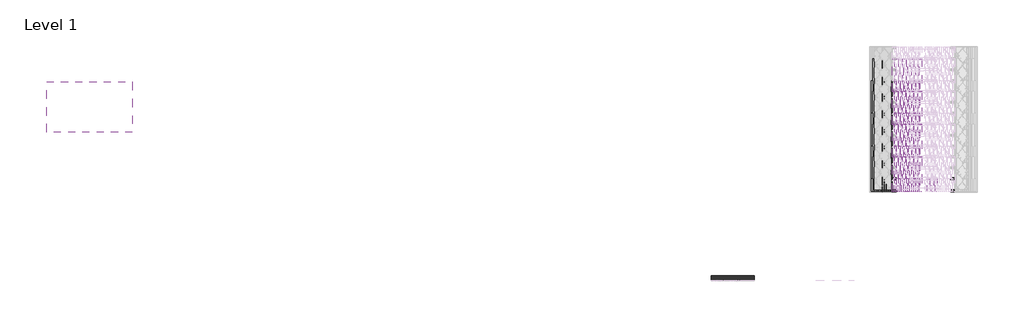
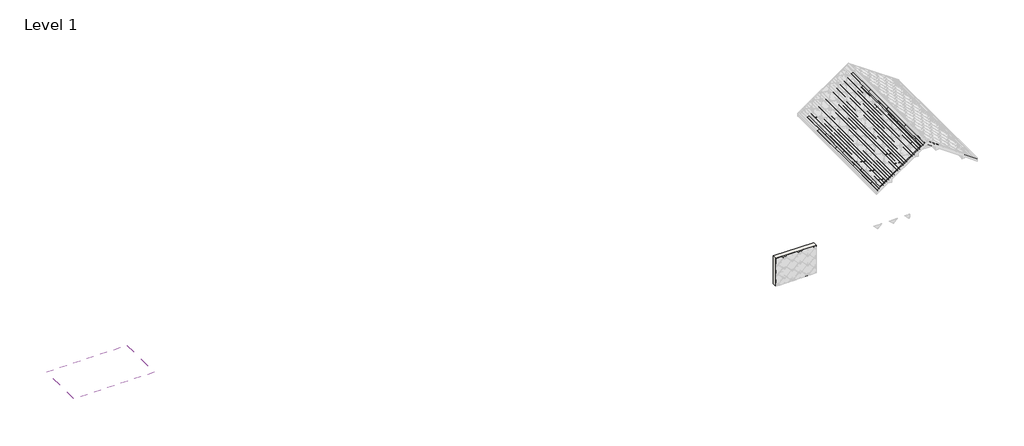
# One storey, part 1 of 6: 109 beams, 1 roof, 1 wall.
"""IFC4 building model written with IfcOpenShell, lengths in millimetres."""

from ifc_helpers import new_model, si_unit, frame, origin, place, context, project, spatial, polyline, outline, extrude, transform, mapped, element, save
from components import structural_framing_100_structural_framing_15_5def26a6, structural_framing_101_structural_framing_15_d9cf2b80, structural_framing_103_structural_framing_15_b869128d, structural_framing_109_structural_framing_15_08dff260, structural_framing_1_structural_framing_1_4f4e03de, structural_framing_14_structural_framing_1_1f79d0da, structural_framing_159_structural_framing_15_e730e61d

model = new_model("IFC4")

# Units and contexts
model_context = context("Model", 3, world=origin())
ifc_project = project(units=[si_unit("LENGTHUNIT", "METRE", prefix="MILLI")], contexts=[model_context])

# Site, building, storey
site = spatial("IfcSite", under=ifc_project)
building = spatial("IfcBuilding", under=site)
storey = spatial("IfcBuildingStorey", under=building, Name="Level 1", Elevation=0.0)

# Beams
placement = place(None, origin())
structural_framing_100_structural_framing_15_shape = structural_framing_100_structural_framing_15_5def26a6(model_context)
element("IfcBeam", 1, ObjectType="Structural Framing 100 : Structural Framing 15", at=placement, inside=storey, context=model_context, shape_type="MappedRepresentation", body=[
    mapped(structural_framing_100_structural_framing_15_shape, transform((-2427.8516115, -870.0, -1700.0), x_axis=(1.0, 0.0, 0.0), y_axis=(0.0, 1.0, 0.0), z_axis=(0.0, 0.0, 1.0))),
])
structural_framing_101_structural_framing_15_shape = structural_framing_101_structural_framing_15_d9cf2b80(model_context)
element("IfcBeam", 2, ObjectType="Structural Framing 101 : Structural Framing 15", at=placement, inside=storey, context=model_context, shape_type="MappedRepresentation", body=[
    mapped(structural_framing_101_structural_framing_15_shape, transform((-2427.8516115, -3340.0, -1700.0), x_axis=(1.0, 0.0, 0.0), y_axis=(0.0, 1.0, 0.0), z_axis=(0.0, 0.0, 1.0))),
])
element("IfcBeam", 3, ObjectType="Structural Framing 102 : Structural Framing 15", at=placement, inside=storey, context=model_context, shape_type="MappedRepresentation", body=[
    mapped(structural_framing_101_structural_framing_15_shape, transform((-2427.8516115, -5740.0, -1700.0), x_axis=(1.0, 0.0, 0.0), y_axis=(0.0, 1.0, 0.0), z_axis=(0.0, 0.0, 1.0))),
])
structural_framing_103_structural_framing_15_shape = structural_framing_103_structural_framing_15_b869128d(model_context)
element("IfcBeam", 4, ObjectType="Structural Framing 103 : Structural Framing 15", at=placement, inside=storey, context=model_context, shape_type="MappedRepresentation", body=[
    mapped(structural_framing_103_structural_framing_15_shape, transform((-2427.8516115, -8140.0, -1700.0), x_axis=(1.0, 0.0, 0.0), y_axis=(0.0, 1.0, 0.0), z_axis=(0.0, 0.0, 1.0))),
])
element("IfcBeam", 5, ObjectType="Structural Framing 106 : Structural Framing 15", at=placement, inside=storey, context=model_context, shape_type="MappedRepresentation", body=[
    mapped(structural_framing_100_structural_framing_15_shape, transform((-2570.6664121, -2470.0, -1800.0), x_axis=(1.0, 0.0, 0.0), y_axis=(0.0, 1.0, 0.0), z_axis=(0.0, 0.0, 1.0))),
])
element("IfcBeam", 6, ObjectType="Structural Framing 107 : Structural Framing 15", at=placement, inside=storey, context=model_context, shape_type="MappedRepresentation", body=[
    mapped(structural_framing_100_structural_framing_15_shape, transform((-2570.6664121, -4870.0, -1800.0), x_axis=(1.0, 0.0, 0.0), y_axis=(0.0, 1.0, 0.0), z_axis=(0.0, 0.0, 1.0))),
])
element("IfcBeam", 7, ObjectType="Structural Framing 108 : Structural Framing 15", at=placement, inside=storey, context=model_context, shape_type="MappedRepresentation", body=[
    mapped(structural_framing_100_structural_framing_15_shape, transform((-2570.6664121, -7270.0, -1800.0), x_axis=(1.0, 0.0, 0.0), y_axis=(0.0, 1.0, 0.0), z_axis=(0.0, 0.0, 1.0))),
])
structural_framing_109_structural_framing_15_shape = structural_framing_109_structural_framing_15_08dff260(model_context)
element("IfcBeam", 8, ObjectType="Structural Framing 109 : Structural Framing 15", at=placement, inside=storey, context=model_context, shape_type="MappedRepresentation", body=[
    mapped(structural_framing_109_structural_framing_15_shape, transform((-2570.6664121, -9670.0, -1800.0), x_axis=(1.0, 0.0, 0.0), y_axis=(0.0, 1.0, 0.0), z_axis=(0.0, 0.0, 1.0))),
])
element("IfcBeam", 9, ObjectType="Structural Framing 110 : Structural Framing 15", at=placement, inside=storey, context=model_context, shape_type="MappedRepresentation", body=[
    mapped(structural_framing_100_structural_framing_15_shape, transform((-2713.4812128, -870.0, -1900.0), x_axis=(1.0, 0.0, 0.0), y_axis=(0.0, 1.0, 0.0), z_axis=(0.0, 0.0, 1.0))),
])
element("IfcBeam", 10, ObjectType="Structural Framing 111 : Structural Framing 15", at=placement, inside=storey, context=model_context, shape_type="MappedRepresentation", body=[
    mapped(structural_framing_101_structural_framing_15_shape, transform((-2713.4812128, -3340.0, -1900.0), x_axis=(1.0, 0.0, 0.0), y_axis=(0.0, 1.0, 0.0), z_axis=(0.0, 0.0, 1.0))),
])
element("IfcBeam", 11, ObjectType="Structural Framing 112 : Structural Framing 15", at=placement, inside=storey, context=model_context, shape_type="MappedRepresentation", body=[
    mapped(structural_framing_101_structural_framing_15_shape, transform((-2713.4812128, -5740.0, -1900.0), x_axis=(1.0, 0.0, 0.0), y_axis=(0.0, 1.0, 0.0), z_axis=(0.0, 0.0, 1.0))),
])
element("IfcBeam", 12, ObjectType="Structural Framing 113 : Structural Framing 15", at=placement, inside=storey, context=model_context, shape_type="MappedRepresentation", body=[
    mapped(structural_framing_103_structural_framing_15_shape, transform((-2713.4812128, -8140.0, -1900.0), x_axis=(1.0, 0.0, 0.0), y_axis=(0.0, 1.0, 0.0), z_axis=(0.0, 0.0, 1.0))),
])
element("IfcBeam", 13, ObjectType="Structural Framing 116 : Structural Framing 15", at=placement, inside=storey, context=model_context, shape_type="MappedRepresentation", body=[
    mapped(structural_framing_100_structural_framing_15_shape, transform((-2856.2960135, -2470.0, -2000.0), x_axis=(1.0, 0.0, 0.0), y_axis=(0.0, 1.0, 0.0), z_axis=(0.0, 0.0, 1.0))),
])
element("IfcBeam", 14, ObjectType="Structural Framing 117 : Structural Framing 15", at=placement, inside=storey, context=model_context, shape_type="MappedRepresentation", body=[
    mapped(structural_framing_100_structural_framing_15_shape, transform((-2856.2960135, -4870.0, -2000.0), x_axis=(1.0, 0.0, 0.0), y_axis=(0.0, 1.0, 0.0), z_axis=(0.0, 0.0, 1.0))),
])
element("IfcBeam", 15, ObjectType="Structural Framing 118 : Structural Framing 15", at=placement, inside=storey, context=model_context, shape_type="MappedRepresentation", body=[
    mapped(structural_framing_100_structural_framing_15_shape, transform((-2856.2960135, -7270.0, -2000.0), x_axis=(1.0, 0.0, 0.0), y_axis=(0.0, 1.0, 0.0), z_axis=(0.0, 0.0, 1.0))),
])
element("IfcBeam", 16, ObjectType="Structural Framing 119 : Structural Framing 15", at=placement, inside=storey, context=model_context, shape_type="MappedRepresentation", body=[
    mapped(structural_framing_109_structural_framing_15_shape, transform((-2856.2960135, -9670.0, -2000.0), x_axis=(1.0, 0.0, 0.0), y_axis=(0.0, 1.0, 0.0), z_axis=(0.0, 0.0, 1.0))),
])
element("IfcBeam", 17, ObjectType="Structural Framing 120 : Structural Framing 15", at=placement, inside=storey, context=model_context, shape_type="MappedRepresentation", body=[
    mapped(structural_framing_100_structural_framing_15_shape, transform((-2999.1108142, -870.0, -2100.0), x_axis=(1.0, 0.0, 0.0), y_axis=(0.0, 1.0, 0.0), z_axis=(0.0, 0.0, 1.0))),
])
element("IfcBeam", 18, ObjectType="Structural Framing 121 : Structural Framing 15", at=placement, inside=storey, context=model_context, shape_type="MappedRepresentation", body=[
    mapped(structural_framing_101_structural_framing_15_shape, transform((-2999.1108142, -3340.0, -2100.0), x_axis=(1.0, 0.0, 0.0), y_axis=(0.0, 1.0, 0.0), z_axis=(0.0, 0.0, 1.0))),
])
element("IfcBeam", 19, ObjectType="Structural Framing 122 : Structural Framing 15", at=placement, inside=storey, context=model_context, shape_type="MappedRepresentation", body=[
    mapped(structural_framing_101_structural_framing_15_shape, transform((-2999.1108142, -5740.0, -2100.0), x_axis=(1.0, 0.0, 0.0), y_axis=(0.0, 1.0, 0.0), z_axis=(0.0, 0.0, 1.0))),
])
element("IfcBeam", 20, ObjectType="Structural Framing 123 : Structural Framing 15", at=placement, inside=storey, context=model_context, shape_type="MappedRepresentation", body=[
    mapped(structural_framing_103_structural_framing_15_shape, transform((-2999.1108142, -8140.0, -2100.0), x_axis=(1.0, 0.0, 0.0), y_axis=(0.0, 1.0, 0.0), z_axis=(0.0, 0.0, 1.0))),
])
element("IfcBeam", 21, ObjectType="Structural Framing 126 : Structural Framing 15", at=placement, inside=storey, context=model_context, shape_type="MappedRepresentation", body=[
    mapped(structural_framing_100_structural_framing_15_shape, transform((-3141.9256148, -2470.0, -2200.0), x_axis=(1.0, 0.0, 0.0), y_axis=(0.0, 1.0, 0.0), z_axis=(0.0, 0.0, 1.0))),
])
element("IfcBeam", 22, ObjectType="Structural Framing 127 : Structural Framing 15", at=placement, inside=storey, context=model_context, shape_type="MappedRepresentation", body=[
    mapped(structural_framing_100_structural_framing_15_shape, transform((-3141.9256148, -4870.0, -2200.0), x_axis=(1.0, 0.0, 0.0), y_axis=(0.0, 1.0, 0.0), z_axis=(0.0, 0.0, 1.0))),
])
element("IfcBeam", 23, ObjectType="Structural Framing 128 : Structural Framing 15", at=placement, inside=storey, context=model_context, shape_type="MappedRepresentation", body=[
    mapped(structural_framing_100_structural_framing_15_shape, transform((-3141.9256148, -7270.0, -2200.0), x_axis=(1.0, 0.0, 0.0), y_axis=(0.0, 1.0, 0.0), z_axis=(0.0, 0.0, 1.0))),
])
element("IfcBeam", 24, ObjectType="Structural Framing 129 : Structural Framing 15", at=placement, inside=storey, context=model_context, shape_type="MappedRepresentation", body=[
    mapped(structural_framing_109_structural_framing_15_shape, transform((-3141.9256148, -9670.0, -2200.0), x_axis=(1.0, 0.0, 0.0), y_axis=(0.0, 1.0, 0.0), z_axis=(0.0, 0.0, 1.0))),
])
structural_framing_1_structural_framing_1_shape = structural_framing_1_structural_framing_1_4f4e03de(model_context)
element("IfcBeam", 25, ObjectType="Structural Framing 13 : Structural Framing 1", at=placement, inside=storey, context=model_context, shape_type="MappedRepresentation", body=[
    mapped(structural_framing_1_structural_framing_1_shape, transform((0.0, -9600.0, 0.0), x_axis=(1.0, 0.0, 0.0), y_axis=(0.0, 1.0, 0.0), z_axis=(0.0, 0.0, 1.0))),
])
element("IfcBeam", 26, ObjectType="Structural Framing 130 : Structural Framing 15", at=placement, inside=storey, context=model_context, shape_type="MappedRepresentation", body=[
    mapped(structural_framing_100_structural_framing_15_shape, transform((-3284.7404155, -870.0, -2300.0), x_axis=(1.0, 0.0, 0.0), y_axis=(0.0, 1.0, 0.0), z_axis=(0.0, 0.0, 1.0))),
])
element("IfcBeam", 27, ObjectType="Structural Framing 131 : Structural Framing 15", at=placement, inside=storey, context=model_context, shape_type="MappedRepresentation", body=[
    mapped(structural_framing_101_structural_framing_15_shape, transform((-3284.7404155, -3340.0, -2300.0), x_axis=(1.0, 0.0, 0.0), y_axis=(0.0, 1.0, 0.0), z_axis=(0.0, 0.0, 1.0))),
])
element("IfcBeam", 28, ObjectType="Structural Framing 132 : Structural Framing 15", at=placement, inside=storey, context=model_context, shape_type="MappedRepresentation", body=[
    mapped(structural_framing_101_structural_framing_15_shape, transform((-3284.7404155, -5740.0, -2300.0), x_axis=(1.0, 0.0, 0.0), y_axis=(0.0, 1.0, 0.0), z_axis=(0.0, 0.0, 1.0))),
])
element("IfcBeam", 29, ObjectType="Structural Framing 133 : Structural Framing 15", at=placement, inside=storey, context=model_context, shape_type="MappedRepresentation", body=[
    mapped(structural_framing_103_structural_framing_15_shape, transform((-3284.7404155, -8140.0, -2300.0), x_axis=(1.0, 0.0, 0.0), y_axis=(0.0, 1.0, 0.0), z_axis=(0.0, 0.0, 1.0))),
])
element("IfcBeam", 30, ObjectType="Structural Framing 136 : Structural Framing 15", at=placement, inside=storey, context=model_context, shape_type="MappedRepresentation", body=[
    mapped(structural_framing_100_structural_framing_15_shape, transform((-3427.5552162, -2470.0, -2400.0), x_axis=(1.0, 0.0, 0.0), y_axis=(0.0, 1.0, 0.0), z_axis=(0.0, 0.0, 1.0))),
])
element("IfcBeam", 31, ObjectType="Structural Framing 137 : Structural Framing 15", at=placement, inside=storey, context=model_context, shape_type="MappedRepresentation", body=[
    mapped(structural_framing_100_structural_framing_15_shape, transform((-3427.5552162, -4870.0, -2400.0), x_axis=(1.0, 0.0, 0.0), y_axis=(0.0, 1.0, 0.0), z_axis=(0.0, 0.0, 1.0))),
])
element("IfcBeam", 32, ObjectType="Structural Framing 138 : Structural Framing 15", at=placement, inside=storey, context=model_context, shape_type="MappedRepresentation", body=[
    mapped(structural_framing_100_structural_framing_15_shape, transform((-3427.5552162, -7270.0, -2400.0), x_axis=(1.0, 0.0, 0.0), y_axis=(0.0, 1.0, 0.0), z_axis=(0.0, 0.0, 1.0))),
])
element("IfcBeam", 33, ObjectType="Structural Framing 139 : Structural Framing 15", at=placement, inside=storey, context=model_context, shape_type="MappedRepresentation", body=[
    mapped(structural_framing_109_structural_framing_15_shape, transform((-3427.5552162, -9670.0, -2400.0), x_axis=(1.0, 0.0, 0.0), y_axis=(0.0, 1.0, 0.0), z_axis=(0.0, 0.0, 1.0))),
])
structural_framing_14_structural_framing_1_shape = structural_framing_14_structural_framing_1_1f79d0da(model_context)
element("IfcBeam", 34, ObjectType="Structural Framing 14 : Structural Framing 1", at=placement, inside=storey, context=model_context, shape_type="MappedRepresentation", body=[
    mapped(structural_framing_14_structural_framing_1_shape, transform((0.0, -10488.455608, 0.0), x_axis=(1.0, 0.0, 0.0), y_axis=(0.0, 1.0, 0.0), z_axis=(0.0, 0.0, 1.0))),
])
element("IfcBeam", 35, ObjectType="Structural Framing 140 : Structural Framing 15", at=placement, inside=storey, context=model_context, shape_type="MappedRepresentation", body=[
    mapped(structural_framing_100_structural_framing_15_shape, transform((-3570.3700169, -870.0, -2500.0), x_axis=(1.0, 0.0, 0.0), y_axis=(0.0, 1.0, 0.0), z_axis=(0.0, 0.0, 1.0))),
])
element("IfcBeam", 36, ObjectType="Structural Framing 141 : Structural Framing 15", at=placement, inside=storey, context=model_context, shape_type="MappedRepresentation", body=[
    mapped(structural_framing_101_structural_framing_15_shape, transform((-3570.3700169, -3340.0, -2500.0), x_axis=(1.0, 0.0, 0.0), y_axis=(0.0, 1.0, 0.0), z_axis=(0.0, 0.0, 1.0))),
])
element("IfcBeam", 37, ObjectType="Structural Framing 142 : Structural Framing 15", at=placement, inside=storey, context=model_context, shape_type="MappedRepresentation", body=[
    mapped(structural_framing_101_structural_framing_15_shape, transform((-3570.3700169, -5740.0, -2500.0), x_axis=(1.0, 0.0, 0.0), y_axis=(0.0, 1.0, 0.0), z_axis=(0.0, 0.0, 1.0))),
])
element("IfcBeam", 38, ObjectType="Structural Framing 143 : Structural Framing 15", at=placement, inside=storey, context=model_context, shape_type="MappedRepresentation", body=[
    mapped(structural_framing_103_structural_framing_15_shape, transform((-3570.3700169, -8140.0, -2500.0), x_axis=(1.0, 0.0, 0.0), y_axis=(0.0, 1.0, 0.0), z_axis=(0.0, 0.0, 1.0))),
])
element("IfcBeam", 39, ObjectType="Structural Framing 146 : Structural Framing 15", at=placement, inside=storey, context=model_context, shape_type="MappedRepresentation", body=[
    mapped(structural_framing_100_structural_framing_15_shape, transform((-3713.1848175, -2470.0, -2600.0), x_axis=(1.0, 0.0, 0.0), y_axis=(0.0, 1.0, 0.0), z_axis=(0.0, 0.0, 1.0))),
])
element("IfcBeam", 40, ObjectType="Structural Framing 147 : Structural Framing 15", at=placement, inside=storey, context=model_context, shape_type="MappedRepresentation", body=[
    mapped(structural_framing_100_structural_framing_15_shape, transform((-3713.1848175, -4870.0, -2600.0), x_axis=(1.0, 0.0, 0.0), y_axis=(0.0, 1.0, 0.0), z_axis=(0.0, 0.0, 1.0))),
])
element("IfcBeam", 41, ObjectType="Structural Framing 148 : Structural Framing 15", at=placement, inside=storey, context=model_context, shape_type="MappedRepresentation", body=[
    mapped(structural_framing_100_structural_framing_15_shape, transform((-3713.1848175, -7270.0, -2600.0), x_axis=(1.0, 0.0, 0.0), y_axis=(0.0, 1.0, 0.0), z_axis=(0.0, 0.0, 1.0))),
])
element("IfcBeam", 42, ObjectType="Structural Framing 149 : Structural Framing 15", at=placement, inside=storey, context=model_context, shape_type="MappedRepresentation", body=[
    mapped(structural_framing_109_structural_framing_15_shape, transform((-3713.1848175, -9670.0, -2600.0), x_axis=(1.0, 0.0, 0.0), y_axis=(0.0, 1.0, 0.0), z_axis=(0.0, 0.0, 1.0))),
])
structural_framing_159_structural_framing_15_shape = structural_framing_159_structural_framing_15_e730e61d(model_context)
element("IfcBeam", 43, ObjectType="Structural Framing 169 : Structural Framing 15", at=placement, inside=storey, context=model_context, shape_type="MappedRepresentation", body=[
    mapped(structural_framing_159_structural_framing_15_shape, transform((285.6296013, -9670.0, -200.0), x_axis=(1.0, 0.0, 0.0), y_axis=(0.0, 1.0, 0.0), z_axis=(0.0, 0.0, 1.0))),
])
element("IfcBeam", 44, ObjectType="Structural Framing 179 : Structural Framing 15", at=placement, inside=storey, context=model_context, shape_type="MappedRepresentation", body=[
    mapped(structural_framing_159_structural_framing_15_shape, transform((571.2592027, -9670.0, -400.0), x_axis=(1.0, 0.0, 0.0), y_axis=(0.0, 1.0, 0.0), z_axis=(0.0, 0.0, 1.0))),
])
element("IfcBeam", 45, ObjectType="Structural Framing 189 : Structural Framing 15", at=placement, inside=storey, context=model_context, shape_type="MappedRepresentation", body=[
    mapped(structural_framing_159_structural_framing_15_shape, transform((856.888804, -9670.0, -600.0), x_axis=(1.0, 0.0, 0.0), y_axis=(0.0, 1.0, 0.0), z_axis=(0.0, 0.0, 1.0))),
])
element("IfcBeam", 46, ObjectType="Structural Framing 20 : Structural Framing 15", at=placement, inside=storey, context=model_context, shape_type="MappedRepresentation", body=[
    mapped(structural_framing_100_structural_framing_15_shape, transform((-142.8148007, -870.0, -100.0), x_axis=(1.0, 0.0, 0.0), y_axis=(0.0, 1.0, 0.0), z_axis=(0.0, 0.0, 1.0))),
])
element("IfcBeam", 47, ObjectType="Structural Framing 21 : Structural Framing 15", at=placement, inside=storey, context=model_context, shape_type="MappedRepresentation", body=[
    mapped(structural_framing_101_structural_framing_15_shape, transform((-142.8148007, -3340.0, -100.0), x_axis=(1.0, 0.0, 0.0), y_axis=(0.0, 1.0, 0.0), z_axis=(0.0, 0.0, 1.0))),
])
element("IfcBeam", 48, ObjectType="Structural Framing 22 : Structural Framing 15", at=placement, inside=storey, context=model_context, shape_type="MappedRepresentation", body=[
    mapped(structural_framing_101_structural_framing_15_shape, transform((-142.8148007, -5740.0, -100.0), x_axis=(1.0, 0.0, 0.0), y_axis=(0.0, 1.0, 0.0), z_axis=(0.0, 0.0, 1.0))),
])
element("IfcBeam", 49, ObjectType="Structural Framing 23 : Structural Framing 15", at=placement, inside=storey, context=model_context, shape_type="MappedRepresentation", body=[
    mapped(structural_framing_103_structural_framing_15_shape, transform((-142.8148007, -8140.0, -100.0), x_axis=(1.0, 0.0, 0.0), y_axis=(0.0, 1.0, 0.0), z_axis=(0.0, 0.0, 1.0))),
])
element("IfcBeam", 50, ObjectType="Structural Framing 26 : Structural Framing 15", at=placement, inside=storey, context=model_context, shape_type="MappedRepresentation", body=[
    mapped(structural_framing_100_structural_framing_15_shape, transform((-285.6296013, -2470.0, -200.0), x_axis=(1.0, 0.0, 0.0), y_axis=(0.0, 1.0, 0.0), z_axis=(0.0, 0.0, 1.0))),
])
element("IfcBeam", 51, ObjectType="Structural Framing 27 : Structural Framing 15", at=placement, inside=storey, context=model_context, shape_type="MappedRepresentation", body=[
    mapped(structural_framing_100_structural_framing_15_shape, transform((-285.6296013, -4870.0, -200.0), x_axis=(1.0, 0.0, 0.0), y_axis=(0.0, 1.0, 0.0), z_axis=(0.0, 0.0, 1.0))),
])
element("IfcBeam", 52, ObjectType="Structural Framing 28 : Structural Framing 15", at=placement, inside=storey, context=model_context, shape_type="MappedRepresentation", body=[
    mapped(structural_framing_100_structural_framing_15_shape, transform((-285.6296013, -7270.0, -200.0), x_axis=(1.0, 0.0, 0.0), y_axis=(0.0, 1.0, 0.0), z_axis=(0.0, 0.0, 1.0))),
])
element("IfcBeam", 53, ObjectType="Structural Framing 29 : Structural Framing 15", at=placement, inside=storey, context=model_context, shape_type="MappedRepresentation", body=[
    mapped(structural_framing_109_structural_framing_15_shape, transform((-285.6296013, -9670.0, -200.0), x_axis=(1.0, 0.0, 0.0), y_axis=(0.0, 1.0, 0.0), z_axis=(0.0, 0.0, 1.0))),
])
element("IfcBeam", 54, ObjectType="Structural Framing 30 : Structural Framing 15", at=placement, inside=storey, context=model_context, shape_type="MappedRepresentation", body=[
    mapped(structural_framing_100_structural_framing_15_shape, transform((-428.444402, -870.0, -300.0), x_axis=(1.0, 0.0, 0.0), y_axis=(0.0, 1.0, 0.0), z_axis=(0.0, 0.0, 1.0))),
])
element("IfcBeam", 55, ObjectType="Structural Framing 31 : Structural Framing 15", at=placement, inside=storey, context=model_context, shape_type="MappedRepresentation", body=[
    mapped(structural_framing_101_structural_framing_15_shape, transform((-428.444402, -3340.0, -300.0), x_axis=(1.0, 0.0, 0.0), y_axis=(0.0, 1.0, 0.0), z_axis=(0.0, 0.0, 1.0))),
])
element("IfcBeam", 56, ObjectType="Structural Framing 32 : Structural Framing 15", at=placement, inside=storey, context=model_context, shape_type="MappedRepresentation", body=[
    mapped(structural_framing_101_structural_framing_15_shape, transform((-428.444402, -5740.0, -300.0), x_axis=(1.0, 0.0, 0.0), y_axis=(0.0, 1.0, 0.0), z_axis=(0.0, 0.0, 1.0))),
])
element("IfcBeam", 57, ObjectType="Structural Framing 33 : Structural Framing 15", at=placement, inside=storey, context=model_context, shape_type="MappedRepresentation", body=[
    mapped(structural_framing_103_structural_framing_15_shape, transform((-428.444402, -8140.0, -300.0), x_axis=(1.0, 0.0, 0.0), y_axis=(0.0, 1.0, 0.0), z_axis=(0.0, 0.0, 1.0))),
])
element("IfcBeam", 58, ObjectType="Structural Framing 36 : Structural Framing 15", at=placement, inside=storey, context=model_context, shape_type="MappedRepresentation", body=[
    mapped(structural_framing_100_structural_framing_15_shape, transform((-571.2592027, -2470.0, -400.0), x_axis=(1.0, 0.0, 0.0), y_axis=(0.0, 1.0, 0.0), z_axis=(0.0, 0.0, 1.0))),
])
element("IfcBeam", 59, ObjectType="Structural Framing 37 : Structural Framing 15", at=placement, inside=storey, context=model_context, shape_type="MappedRepresentation", body=[
    mapped(structural_framing_100_structural_framing_15_shape, transform((-571.2592027, -4870.0, -400.0), x_axis=(1.0, 0.0, 0.0), y_axis=(0.0, 1.0, 0.0), z_axis=(0.0, 0.0, 1.0))),
])
element("IfcBeam", 60, ObjectType="Structural Framing 38 : Structural Framing 15", at=placement, inside=storey, context=model_context, shape_type="MappedRepresentation", body=[
    mapped(structural_framing_100_structural_framing_15_shape, transform((-571.2592027, -7270.0, -400.0), x_axis=(1.0, 0.0, 0.0), y_axis=(0.0, 1.0, 0.0), z_axis=(0.0, 0.0, 1.0))),
])
element("IfcBeam", 61, ObjectType="Structural Framing 39 : Structural Framing 15", at=placement, inside=storey, context=model_context, shape_type="MappedRepresentation", body=[
    mapped(structural_framing_109_structural_framing_15_shape, transform((-571.2592027, -9670.0, -400.0), x_axis=(1.0, 0.0, 0.0), y_axis=(0.0, 1.0, 0.0), z_axis=(0.0, 0.0, 1.0))),
])
element("IfcBeam", 62, ObjectType="Structural Framing 40 : Structural Framing 15", at=placement, inside=storey, context=model_context, shape_type="MappedRepresentation", body=[
    mapped(structural_framing_100_structural_framing_15_shape, transform((-714.0740034, -870.0, -500.0), x_axis=(1.0, 0.0, 0.0), y_axis=(0.0, 1.0, 0.0), z_axis=(0.0, 0.0, 1.0))),
])
element("IfcBeam", 63, ObjectType="Structural Framing 41 : Structural Framing 15", at=placement, inside=storey, context=model_context, shape_type="MappedRepresentation", body=[
    mapped(structural_framing_101_structural_framing_15_shape, transform((-714.0740034, -3340.0, -500.0), x_axis=(1.0, 0.0, 0.0), y_axis=(0.0, 1.0, 0.0), z_axis=(0.0, 0.0, 1.0))),
])
element("IfcBeam", 64, ObjectType="Structural Framing 42 : Structural Framing 15", at=placement, inside=storey, context=model_context, shape_type="MappedRepresentation", body=[
    mapped(structural_framing_101_structural_framing_15_shape, transform((-714.0740034, -5740.0, -500.0), x_axis=(1.0, 0.0, 0.0), y_axis=(0.0, 1.0, 0.0), z_axis=(0.0, 0.0, 1.0))),
])
element("IfcBeam", 65, ObjectType="Structural Framing 43 : Structural Framing 15", at=placement, inside=storey, context=model_context, shape_type="MappedRepresentation", body=[
    mapped(structural_framing_103_structural_framing_15_shape, transform((-714.0740034, -8140.0, -500.0), x_axis=(1.0, 0.0, 0.0), y_axis=(0.0, 1.0, 0.0), z_axis=(0.0, 0.0, 1.0))),
])
element("IfcBeam", 66, ObjectType="Structural Framing 46 : Structural Framing 15", at=placement, inside=storey, context=model_context, shape_type="MappedRepresentation", body=[
    mapped(structural_framing_100_structural_framing_15_shape, transform((-856.888804, -2470.0, -600.0), x_axis=(1.0, 0.0, 0.0), y_axis=(0.0, 1.0, 0.0), z_axis=(0.0, 0.0, 1.0))),
])
element("IfcBeam", 67, ObjectType="Structural Framing 47 : Structural Framing 15", at=placement, inside=storey, context=model_context, shape_type="MappedRepresentation", body=[
    mapped(structural_framing_100_structural_framing_15_shape, transform((-856.888804, -4870.0, -600.0), x_axis=(1.0, 0.0, 0.0), y_axis=(0.0, 1.0, 0.0), z_axis=(0.0, 0.0, 1.0))),
])
element("IfcBeam", 68, ObjectType="Structural Framing 48 : Structural Framing 15", at=placement, inside=storey, context=model_context, shape_type="MappedRepresentation", body=[
    mapped(structural_framing_100_structural_framing_15_shape, transform((-856.888804, -7270.0, -600.0), x_axis=(1.0, 0.0, 0.0), y_axis=(0.0, 1.0, 0.0), z_axis=(0.0, 0.0, 1.0))),
])
element("IfcBeam", 69, ObjectType="Structural Framing 49 : Structural Framing 15", at=placement, inside=storey, context=model_context, shape_type="MappedRepresentation", body=[
    mapped(structural_framing_109_structural_framing_15_shape, transform((-856.888804, -9670.0, -600.0), x_axis=(1.0, 0.0, 0.0), y_axis=(0.0, 1.0, 0.0), z_axis=(0.0, 0.0, 1.0))),
])
element("IfcBeam", 70, ObjectType="Structural Framing 50 : Structural Framing 15", at=placement, inside=storey, context=model_context, shape_type="MappedRepresentation", body=[
    mapped(structural_framing_100_structural_framing_15_shape, transform((-999.7036047, -870.0, -700.0), x_axis=(1.0, 0.0, 0.0), y_axis=(0.0, 1.0, 0.0), z_axis=(0.0, 0.0, 1.0))),
])
element("IfcBeam", 71, ObjectType="Structural Framing 51 : Structural Framing 15", at=placement, inside=storey, context=model_context, shape_type="MappedRepresentation", body=[
    mapped(structural_framing_101_structural_framing_15_shape, transform((-999.7036047, -3340.0, -700.0), x_axis=(1.0, 0.0, 0.0), y_axis=(0.0, 1.0, 0.0), z_axis=(0.0, 0.0, 1.0))),
])
element("IfcBeam", 72, ObjectType="Structural Framing 52 : Structural Framing 15", at=placement, inside=storey, context=model_context, shape_type="MappedRepresentation", body=[
    mapped(structural_framing_101_structural_framing_15_shape, transform((-999.7036047, -5740.0, -700.0), x_axis=(1.0, 0.0, 0.0), y_axis=(0.0, 1.0, 0.0), z_axis=(0.0, 0.0, 1.0))),
])
element("IfcBeam", 73, ObjectType="Structural Framing 53 : Structural Framing 15", at=placement, inside=storey, context=model_context, shape_type="MappedRepresentation", body=[
    mapped(structural_framing_103_structural_framing_15_shape, transform((-999.7036047, -8140.0, -700.0), x_axis=(1.0, 0.0, 0.0), y_axis=(0.0, 1.0, 0.0), z_axis=(0.0, 0.0, 1.0))),
])
element("IfcBeam", 74, ObjectType="Structural Framing 56 : Structural Framing 15", at=placement, inside=storey, context=model_context, shape_type="MappedRepresentation", body=[
    mapped(structural_framing_100_structural_framing_15_shape, transform((-1142.5184054, -2470.0, -800.0), x_axis=(1.0, 0.0, 0.0), y_axis=(0.0, 1.0, 0.0), z_axis=(0.0, 0.0, 1.0))),
])
element("IfcBeam", 75, ObjectType="Structural Framing 57 : Structural Framing 15", at=placement, inside=storey, context=model_context, shape_type="MappedRepresentation", body=[
    mapped(structural_framing_100_structural_framing_15_shape, transform((-1142.5184054, -4870.0, -800.0), x_axis=(1.0, 0.0, 0.0), y_axis=(0.0, 1.0, 0.0), z_axis=(0.0, 0.0, 1.0))),
])
element("IfcBeam", 76, ObjectType="Structural Framing 58 : Structural Framing 15", at=placement, inside=storey, context=model_context, shape_type="MappedRepresentation", body=[
    mapped(structural_framing_100_structural_framing_15_shape, transform((-1142.5184054, -7270.0, -800.0), x_axis=(1.0, 0.0, 0.0), y_axis=(0.0, 1.0, 0.0), z_axis=(0.0, 0.0, 1.0))),
])
element("IfcBeam", 77, ObjectType="Structural Framing 59 : Structural Framing 15", at=placement, inside=storey, context=model_context, shape_type="MappedRepresentation", body=[
    mapped(structural_framing_109_structural_framing_15_shape, transform((-1142.5184054, -9670.0, -800.0), x_axis=(1.0, 0.0, 0.0), y_axis=(0.0, 1.0, 0.0), z_axis=(0.0, 0.0, 1.0))),
])
element("IfcBeam", 78, ObjectType="Structural Framing 60 : Structural Framing 15", at=placement, inside=storey, context=model_context, shape_type="MappedRepresentation", body=[
    mapped(structural_framing_100_structural_framing_15_shape, transform((-1285.3332061, -870.0, -900.0), x_axis=(1.0, 0.0, 0.0), y_axis=(0.0, 1.0, 0.0), z_axis=(0.0, 0.0, 1.0))),
])
element("IfcBeam", 79, ObjectType="Structural Framing 61 : Structural Framing 15", at=placement, inside=storey, context=model_context, shape_type="MappedRepresentation", body=[
    mapped(structural_framing_101_structural_framing_15_shape, transform((-1285.3332061, -3340.0, -900.0), x_axis=(1.0, 0.0, 0.0), y_axis=(0.0, 1.0, 0.0), z_axis=(0.0, 0.0, 1.0))),
])
element("IfcBeam", 80, ObjectType="Structural Framing 62 : Structural Framing 15", at=placement, inside=storey, context=model_context, shape_type="MappedRepresentation", body=[
    mapped(structural_framing_101_structural_framing_15_shape, transform((-1285.3332061, -5740.0, -900.0), x_axis=(1.0, 0.0, 0.0), y_axis=(0.0, 1.0, 0.0), z_axis=(0.0, 0.0, 1.0))),
])
element("IfcBeam", 81, ObjectType="Structural Framing 63 : Structural Framing 15", at=placement, inside=storey, context=model_context, shape_type="MappedRepresentation", body=[
    mapped(structural_framing_103_structural_framing_15_shape, transform((-1285.3332061, -8140.0, -900.0), x_axis=(1.0, 0.0, 0.0), y_axis=(0.0, 1.0, 0.0), z_axis=(0.0, 0.0, 1.0))),
])
element("IfcBeam", 82, ObjectType="Structural Framing 66 : Structural Framing 15", at=placement, inside=storey, context=model_context, shape_type="MappedRepresentation", body=[
    mapped(structural_framing_100_structural_framing_15_shape, transform((-1428.1480067, -2470.0, -1000.0), x_axis=(1.0, 0.0, 0.0), y_axis=(0.0, 1.0, 0.0), z_axis=(0.0, 0.0, 1.0))),
])
element("IfcBeam", 83, ObjectType="Structural Framing 67 : Structural Framing 15", at=placement, inside=storey, context=model_context, shape_type="MappedRepresentation", body=[
    mapped(structural_framing_100_structural_framing_15_shape, transform((-1428.1480067, -4870.0, -1000.0), x_axis=(1.0, 0.0, 0.0), y_axis=(0.0, 1.0, 0.0), z_axis=(0.0, 0.0, 1.0))),
])
element("IfcBeam", 84, ObjectType="Structural Framing 68 : Structural Framing 15", at=placement, inside=storey, context=model_context, shape_type="MappedRepresentation", body=[
    mapped(structural_framing_100_structural_framing_15_shape, transform((-1428.1480067, -7270.0, -1000.0), x_axis=(1.0, 0.0, 0.0), y_axis=(0.0, 1.0, 0.0), z_axis=(0.0, 0.0, 1.0))),
])
element("IfcBeam", 85, ObjectType="Structural Framing 69 : Structural Framing 15", at=placement, inside=storey, context=model_context, shape_type="MappedRepresentation", body=[
    mapped(structural_framing_109_structural_framing_15_shape, transform((-1428.1480067, -9670.0, -1000.0), x_axis=(1.0, 0.0, 0.0), y_axis=(0.0, 1.0, 0.0), z_axis=(0.0, 0.0, 1.0))),
])
element("IfcBeam", 86, ObjectType="Structural Framing 70 : Structural Framing 15", at=placement, inside=storey, context=model_context, shape_type="MappedRepresentation", body=[
    mapped(structural_framing_100_structural_framing_15_shape, transform((-1570.9628074, -870.0, -1100.0), x_axis=(1.0, 0.0, 0.0), y_axis=(0.0, 1.0, 0.0), z_axis=(0.0, 0.0, 1.0))),
])
element("IfcBeam", 87, ObjectType="Structural Framing 71 : Structural Framing 15", at=placement, inside=storey, context=model_context, shape_type="MappedRepresentation", body=[
    mapped(structural_framing_101_structural_framing_15_shape, transform((-1570.9628074, -3340.0, -1100.0), x_axis=(1.0, 0.0, 0.0), y_axis=(0.0, 1.0, 0.0), z_axis=(0.0, 0.0, 1.0))),
])
element("IfcBeam", 88, ObjectType="Structural Framing 72 : Structural Framing 15", at=placement, inside=storey, context=model_context, shape_type="MappedRepresentation", body=[
    mapped(structural_framing_101_structural_framing_15_shape, transform((-1570.9628074, -5740.0, -1100.0), x_axis=(1.0, 0.0, 0.0), y_axis=(0.0, 1.0, 0.0), z_axis=(0.0, 0.0, 1.0))),
])
element("IfcBeam", 89, ObjectType="Structural Framing 73 : Structural Framing 15", at=placement, inside=storey, context=model_context, shape_type="MappedRepresentation", body=[
    mapped(structural_framing_103_structural_framing_15_shape, transform((-1570.9628074, -8140.0, -1100.0), x_axis=(1.0, 0.0, 0.0), y_axis=(0.0, 1.0, 0.0), z_axis=(0.0, 0.0, 1.0))),
])
element("IfcBeam", 90, ObjectType="Structural Framing 76 : Structural Framing 15", at=placement, inside=storey, context=model_context, shape_type="MappedRepresentation", body=[
    mapped(structural_framing_100_structural_framing_15_shape, transform((-1713.7776081, -2470.0, -1200.0), x_axis=(1.0, 0.0, 0.0), y_axis=(0.0, 1.0, 0.0), z_axis=(0.0, 0.0, 1.0))),
])
element("IfcBeam", 91, ObjectType="Structural Framing 77 : Structural Framing 15", at=placement, inside=storey, context=model_context, shape_type="MappedRepresentation", body=[
    mapped(structural_framing_100_structural_framing_15_shape, transform((-1713.7776081, -4870.0, -1200.0), x_axis=(1.0, 0.0, 0.0), y_axis=(0.0, 1.0, 0.0), z_axis=(0.0, 0.0, 1.0))),
])
element("IfcBeam", 92, ObjectType="Structural Framing 78 : Structural Framing 15", at=placement, inside=storey, context=model_context, shape_type="MappedRepresentation", body=[
    mapped(structural_framing_100_structural_framing_15_shape, transform((-1713.7776081, -7270.0, -1200.0), x_axis=(1.0, 0.0, 0.0), y_axis=(0.0, 1.0, 0.0), z_axis=(0.0, 0.0, 1.0))),
])
element("IfcBeam", 93, ObjectType="Structural Framing 79 : Structural Framing 15", at=placement, inside=storey, context=model_context, shape_type="MappedRepresentation", body=[
    mapped(structural_framing_109_structural_framing_15_shape, transform((-1713.7776081, -9670.0, -1200.0), x_axis=(1.0, 0.0, 0.0), y_axis=(0.0, 1.0, 0.0), z_axis=(0.0, 0.0, 1.0))),
])
element("IfcBeam", 94, ObjectType="Structural Framing 80 : Structural Framing 15", at=placement, inside=storey, context=model_context, shape_type="MappedRepresentation", body=[
    mapped(structural_framing_100_structural_framing_15_shape, transform((-1856.5924088, -870.0, -1300.0), x_axis=(1.0, 0.0, 0.0), y_axis=(0.0, 1.0, 0.0), z_axis=(0.0, 0.0, 1.0))),
])
element("IfcBeam", 95, ObjectType="Structural Framing 81 : Structural Framing 15", at=placement, inside=storey, context=model_context, shape_type="MappedRepresentation", body=[
    mapped(structural_framing_101_structural_framing_15_shape, transform((-1856.5924088, -3340.0, -1300.0), x_axis=(1.0, 0.0, 0.0), y_axis=(0.0, 1.0, 0.0), z_axis=(0.0, 0.0, 1.0))),
])
element("IfcBeam", 96, ObjectType="Structural Framing 82 : Structural Framing 15", at=placement, inside=storey, context=model_context, shape_type="MappedRepresentation", body=[
    mapped(structural_framing_101_structural_framing_15_shape, transform((-1856.5924088, -5740.0, -1300.0), x_axis=(1.0, 0.0, 0.0), y_axis=(0.0, 1.0, 0.0), z_axis=(0.0, 0.0, 1.0))),
])
element("IfcBeam", 97, ObjectType="Structural Framing 83 : Structural Framing 15", at=placement, inside=storey, context=model_context, shape_type="MappedRepresentation", body=[
    mapped(structural_framing_103_structural_framing_15_shape, transform((-1856.5924088, -8140.0, -1300.0), x_axis=(1.0, 0.0, 0.0), y_axis=(0.0, 1.0, 0.0), z_axis=(0.0, 0.0, 1.0))),
])
element("IfcBeam", 98, ObjectType="Structural Framing 86 : Structural Framing 15", at=placement, inside=storey, context=model_context, shape_type="MappedRepresentation", body=[
    mapped(structural_framing_100_structural_framing_15_shape, transform((-1999.4072094, -2470.0, -1400.0), x_axis=(1.0, 0.0, 0.0), y_axis=(0.0, 1.0, 0.0), z_axis=(0.0, 0.0, 1.0))),
])
element("IfcBeam", 99, ObjectType="Structural Framing 87 : Structural Framing 15", at=placement, inside=storey, context=model_context, shape_type="MappedRepresentation", body=[
    mapped(structural_framing_100_structural_framing_15_shape, transform((-1999.4072094, -4870.0, -1400.0), x_axis=(1.0, 0.0, 0.0), y_axis=(0.0, 1.0, 0.0), z_axis=(0.0, 0.0, 1.0))),
])
element("IfcBeam", 100, ObjectType="Structural Framing 88 : Structural Framing 15", at=placement, inside=storey, context=model_context, shape_type="MappedRepresentation", body=[
    mapped(structural_framing_100_structural_framing_15_shape, transform((-1999.4072094, -7270.0, -1400.0), x_axis=(1.0, 0.0, 0.0), y_axis=(0.0, 1.0, 0.0), z_axis=(0.0, 0.0, 1.0))),
])
element("IfcBeam", 101, ObjectType="Structural Framing 89 : Structural Framing 15", at=placement, inside=storey, context=model_context, shape_type="MappedRepresentation", body=[
    mapped(structural_framing_109_structural_framing_15_shape, transform((-1999.4072094, -9670.0, -1400.0), x_axis=(1.0, 0.0, 0.0), y_axis=(0.0, 1.0, 0.0), z_axis=(0.0, 0.0, 1.0))),
])
element("IfcBeam", 102, ObjectType="Structural Framing 90 : Structural Framing 15", at=placement, inside=storey, context=model_context, shape_type="MappedRepresentation", body=[
    mapped(structural_framing_100_structural_framing_15_shape, transform((-2142.2220101, -870.0, -1500.0), x_axis=(1.0, 0.0, 0.0), y_axis=(0.0, 1.0, 0.0), z_axis=(0.0, 0.0, 1.0))),
])
element("IfcBeam", 103, ObjectType="Structural Framing 91 : Structural Framing 15", at=placement, inside=storey, context=model_context, shape_type="MappedRepresentation", body=[
    mapped(structural_framing_101_structural_framing_15_shape, transform((-2142.2220101, -3340.0, -1500.0), x_axis=(1.0, 0.0, 0.0), y_axis=(0.0, 1.0, 0.0), z_axis=(0.0, 0.0, 1.0))),
])
element("IfcBeam", 104, ObjectType="Structural Framing 92 : Structural Framing 15", at=placement, inside=storey, context=model_context, shape_type="MappedRepresentation", body=[
    mapped(structural_framing_101_structural_framing_15_shape, transform((-2142.2220101, -5740.0, -1500.0), x_axis=(1.0, 0.0, 0.0), y_axis=(0.0, 1.0, 0.0), z_axis=(0.0, 0.0, 1.0))),
])
element("IfcBeam", 105, ObjectType="Structural Framing 93 : Structural Framing 15", at=placement, inside=storey, context=model_context, shape_type="MappedRepresentation", body=[
    mapped(structural_framing_103_structural_framing_15_shape, transform((-2142.2220101, -8140.0, -1500.0), x_axis=(1.0, 0.0, 0.0), y_axis=(0.0, 1.0, 0.0), z_axis=(0.0, 0.0, 1.0))),
])
element("IfcBeam", 106, ObjectType="Structural Framing 96 : Structural Framing 15", at=placement, inside=storey, context=model_context, shape_type="MappedRepresentation", body=[
    mapped(structural_framing_100_structural_framing_15_shape, transform((-2285.0368108, -2470.0, -1600.0), x_axis=(1.0, 0.0, 0.0), y_axis=(0.0, 1.0, 0.0), z_axis=(0.0, 0.0, 1.0))),
])
element("IfcBeam", 107, ObjectType="Structural Framing 97 : Structural Framing 15", at=placement, inside=storey, context=model_context, shape_type="MappedRepresentation", body=[
    mapped(structural_framing_100_structural_framing_15_shape, transform((-2285.0368108, -4870.0, -1600.0), x_axis=(1.0, 0.0, 0.0), y_axis=(0.0, 1.0, 0.0), z_axis=(0.0, 0.0, 1.0))),
])
element("IfcBeam", 108, ObjectType="Structural Framing 98 : Structural Framing 15", at=placement, inside=storey, context=model_context, shape_type="MappedRepresentation", body=[
    mapped(structural_framing_100_structural_framing_15_shape, transform((-2285.0368108, -7270.0, -1600.0), x_axis=(1.0, 0.0, 0.0), y_axis=(0.0, 1.0, 0.0), z_axis=(0.0, 0.0, 1.0))),
])
element("IfcBeam", 109, ObjectType="Structural Framing 99 : Structural Framing 15", at=placement, inside=storey, context=model_context, shape_type="MappedRepresentation", body=[
    mapped(structural_framing_109_structural_framing_15_shape, transform((-2285.0368108, -9670.0, -1600.0), x_axis=(1.0, 0.0, 0.0), y_axis=(0.0, 1.0, 0.0), z_axis=(0.0, 0.0, 1.0))),
])

# Roof
element("IfcRoof", 110, ObjectType="Generic Roof - 300mm", at=placement, inside=storey, context=model_context, shape_type="SweptSolid", body=[
    extrude(outline(polyline([(-2346.9163659, 1731.2493439), (1374.8278068, 3879.9993439), (1374.8278068, 3533.5891824), (-2346.9163659, 1384.8391824), (-2346.9163659, 1731.2493439)])), frame((-63110.6645932, 0.0, 0.0), z_axis=(1.0, 0.0, 0.0), x_axis=(0.0, 1.0, 0.0)), (0.0, 0.0, 1.0), 6300.0),
])

# Wall
element("IfcWall", 111, ObjectType="Exterior - Brick on Mtl. Stud", at=placement, inside=storey, context=model_context, shape_type="SweptSolid", body=[
    extrude(outline(polyline([(-11206.6040673, -13191.8736519), (-14367.7909552, -13191.8736519), (-14367.7909552, -12841.8736519), (-11206.6040673, -12841.8736519), (-11206.6040673, -13191.8736519)])), frame((0.0, 0.0, 226.5669109), z_axis=(0.0, 0.0, 1.0), x_axis=(1.0, 0.0, 0.0)), (0.0, 0.0, 1.0), 2310.5298975),
])

save(model, "model.ifc")
